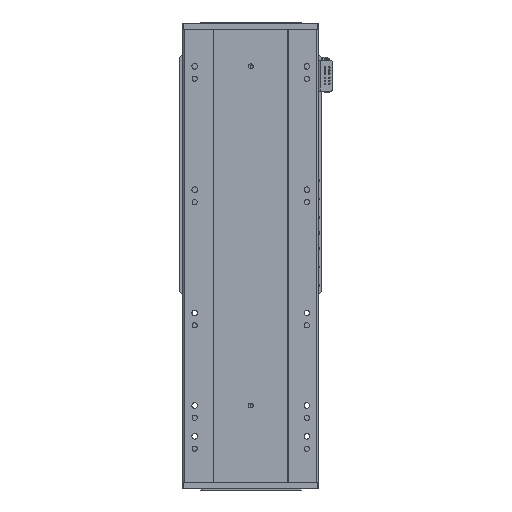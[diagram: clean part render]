
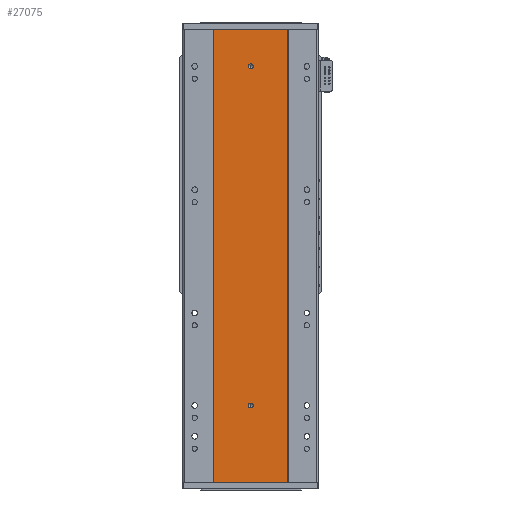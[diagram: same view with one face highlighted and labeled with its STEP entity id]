
A CAD part, front view. The second image highlights one B-rep face of the part: STEP entity #27075.
In plain terms, the highlighted planar face has unit normal (0, -1, 0).
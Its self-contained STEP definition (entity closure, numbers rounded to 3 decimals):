
#471 = VERTEX_POINT ( 'NONE', #34346 ) ;
#1376 = AXIS2_PLACEMENT_3D ( 'NONE', #21570, #25980, #13290 ) ;
#1393 = VECTOR ( 'NONE', #5092, 1000. ) ;
#1467 = LINE ( 'NONE', #5682, #30389 ) ;
#1517 = VECTOR ( 'NONE', #15921, 1000. ) ;
#1535 = CIRCLE ( 'NONE', #48116, 4. ) ;
#1995 = ORIENTED_EDGE ( 'NONE', *, *, #4181, .F. ) ;
#2609 = EDGE_LOOP ( 'NONE', ( #53384, #39475, #28818, #11651 ) ) ;
#3017 = DIRECTION ( 'NONE',  ( 0., 0., -1. ) ) ;
#3199 = DIRECTION ( 'NONE',  ( 0., -1., 0. ) ) ;
#3417 = EDGE_CURVE ( 'NONE', #52218, #13495, #43483, .T. ) ;
#3602 = DIRECTION ( 'NONE',  ( 0., 0., -1. ) ) ;
#4168 = AXIS2_PLACEMENT_3D ( 'NONE', #53239, #49209, #9338 ) ;
#4169 = LINE ( 'NONE', #36409, #1393 ) ;
#4181 = EDGE_CURVE ( 'NONE', #39890, #471, #35085, .T. ) ;
#5092 = DIRECTION ( 'NONE',  ( 1., 0., 0. ) ) ;
#5682 = CARTESIAN_POINT ( 'NONE',  ( 60., 0., 735. ) ) ;
#8855 = EDGE_CURVE ( 'NONE', #13495, #52218, #36702, .T. ) ;
#9338 = DIRECTION ( 'NONE',  ( 0., 0., -1. ) ) ;
#11651 = ORIENTED_EDGE ( 'NONE', *, *, #50413, .T. ) ;
#13024 = VERTEX_POINT ( 'NONE', #44960 ) ;
#13290 = DIRECTION ( 'NONE',  ( 0., 0., -1. ) ) ;
#13495 = VERTEX_POINT ( 'NONE', #35230 ) ;
#15921 = DIRECTION ( 'NONE',  ( 0., 0., -1. ) ) ;
#16233 = FACE_BOUND ( 'NONE', #50934, .T. ) ;
#16907 = FACE_BOUND ( 'NONE', #27696, .T. ) ;
#18779 = DIRECTION ( 'NONE',  ( 0., 0., -1. ) ) ;
#19079 = DIRECTION ( 'NONE',  ( 0., 0., 1. ) ) ;
#21402 = CARTESIAN_POINT ( 'NONE',  ( 60., 0., 0. ) ) ;
#21570 = CARTESIAN_POINT ( 'NONE',  ( 0., 0., 675. ) ) ;
#25980 = DIRECTION ( 'NONE',  ( 0., -1., 0. ) ) ;
#26021 = AXIS2_PLACEMENT_3D ( 'NONE', #45444, #54448, #19079 ) ;
#27075 = ADVANCED_FACE ( 'NONE', ( #16907, #16233, #50629 ), #36933, .F. ) ;
#27696 = EDGE_LOOP ( 'NONE', ( #53676, #54561 ) ) ;
#28409 = CARTESIAN_POINT ( 'NONE',  ( 0., 0., 679. ) ) ;
#28818 = ORIENTED_EDGE ( 'NONE', *, *, #50424, .F. ) ;
#29907 = DIRECTION ( 'NONE',  ( 0., -1., 0. ) ) ;
#30389 = VECTOR ( 'NONE', #18779, 1000. ) ;
#32495 = CARTESIAN_POINT ( 'NONE',  ( 60., 0., 735. ) ) ;
#33022 = EDGE_CURVE ( 'NONE', #13024, #54308, #4169, .T. ) ;
#34126 = CARTESIAN_POINT ( 'NONE',  ( 0., 0., 125. ) ) ;
#34306 = VERTEX_POINT ( 'NONE', #45930 ) ;
#34346 = CARTESIAN_POINT ( 'NONE',  ( 0., 0., 129. ) ) ;
#35085 = CIRCLE ( 'NONE', #52290, 4. ) ;
#35219 = VECTOR ( 'NONE', #55912, 1000. ) ;
#35230 = CARTESIAN_POINT ( 'NONE',  ( 0., 0., 671. ) ) ;
#36409 = CARTESIAN_POINT ( 'NONE',  ( -60., 0., 0. ) ) ;
#36612 = LINE ( 'NONE', #56283, #1517 ) ;
#36702 = CIRCLE ( 'NONE', #4168, 4. ) ;
#36933 = PLANE ( 'NONE',  #26021 ) ;
#37525 = CARTESIAN_POINT ( 'NONE',  ( 0., 0., 121. ) ) ;
#39012 = ORIENTED_EDGE ( 'NONE', *, *, #44269, .F. ) ;
#39374 = LINE ( 'NONE', #46907, #35219 ) ;
#39475 = ORIENTED_EDGE ( 'NONE', *, *, #50774, .F. ) ;
#39890 = VERTEX_POINT ( 'NONE', #37525 ) ;
#43483 = CIRCLE ( 'NONE', #1376, 4. ) ;
#44269 = EDGE_CURVE ( 'NONE', #471, #39890, #1535, .T. ) ;
#44960 = CARTESIAN_POINT ( 'NONE',  ( -60., 0., 0. ) ) ;
#45311 = VERTEX_POINT ( 'NONE', #32495 ) ;
#45444 = CARTESIAN_POINT ( 'NONE',  ( -60., 0., 735. ) ) ;
#45930 = CARTESIAN_POINT ( 'NONE',  ( -60., 0., 735. ) ) ;
#46907 = CARTESIAN_POINT ( 'NONE',  ( -60., 0., 735. ) ) ;
#47454 = CARTESIAN_POINT ( 'NONE',  ( 0., 0., 125. ) ) ;
#48116 = AXIS2_PLACEMENT_3D ( 'NONE', #47454, #29907, #3602 ) ;
#49209 = DIRECTION ( 'NONE',  ( 0., -1., 0. ) ) ;
#50413 = EDGE_CURVE ( 'NONE', #34306, #13024, #36612, .T. ) ;
#50424 = EDGE_CURVE ( 'NONE', #34306, #45311, #39374, .T. ) ;
#50629 = FACE_OUTER_BOUND ( 'NONE', #2609, .T. ) ;
#50774 = EDGE_CURVE ( 'NONE', #45311, #54308, #1467, .T. ) ;
#50934 = EDGE_LOOP ( 'NONE', ( #1995, #39012 ) ) ;
#52218 = VERTEX_POINT ( 'NONE', #28409 ) ;
#52290 = AXIS2_PLACEMENT_3D ( 'NONE', #34126, #3199, #3017 ) ;
#53239 = CARTESIAN_POINT ( 'NONE',  ( 0., 0., 675. ) ) ;
#53384 = ORIENTED_EDGE ( 'NONE', *, *, #33022, .T. ) ;
#53676 = ORIENTED_EDGE ( 'NONE', *, *, #8855, .F. ) ;
#54308 = VERTEX_POINT ( 'NONE', #21402 ) ;
#54448 = DIRECTION ( 'NONE',  ( 0., 1., 0. ) ) ;
#54561 = ORIENTED_EDGE ( 'NONE', *, *, #3417, .F. ) ;
#55912 = DIRECTION ( 'NONE',  ( 1., 0., 0. ) ) ;
#56283 = CARTESIAN_POINT ( 'NONE',  ( -60., 0., 735. ) ) ;
